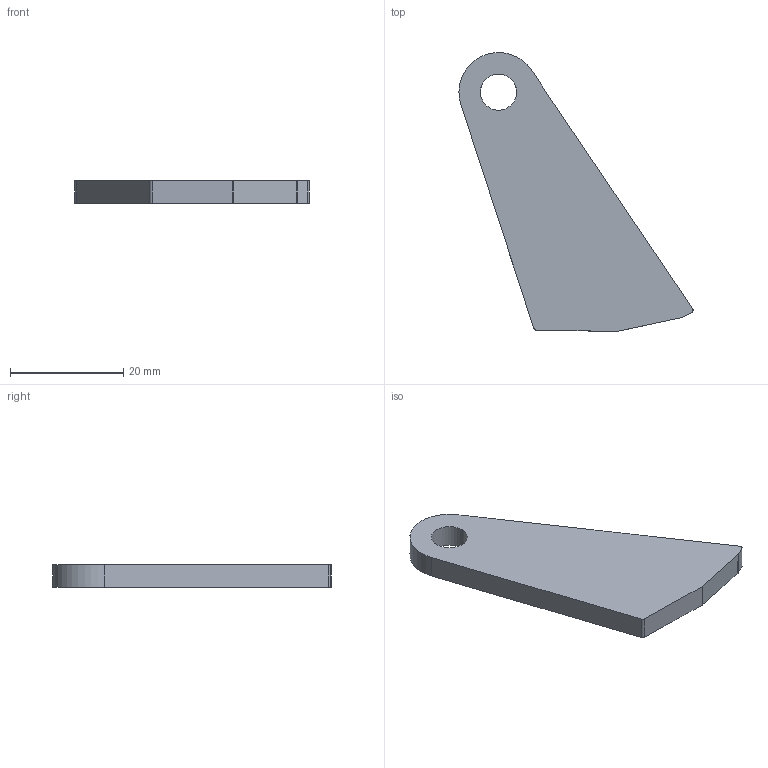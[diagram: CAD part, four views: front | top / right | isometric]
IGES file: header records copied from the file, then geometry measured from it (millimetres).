
Start section: START RECORD GO HERE.
Global section: file name: 20M_RL_FD.igs; native system: IBM CATIA IGES - CATIA Version 5 Release 19 ; preprocessor: CATIA Version 5 Release 19 ; author: alexb; organization: LAPTOP-PR6NE7IP; date: 20191216.213641; units: millimetre
Bounding box: 41.39 x 49.29 x 4 mm (x, y, z)
Surface area: 2650.9 mm2 (no closed solid volume)
Topology: 0 solids, 0 shells, 14 faces, 72 edges, 76 vertices
Faces by surface type: revolution 7, plane 5, extrusion 2
